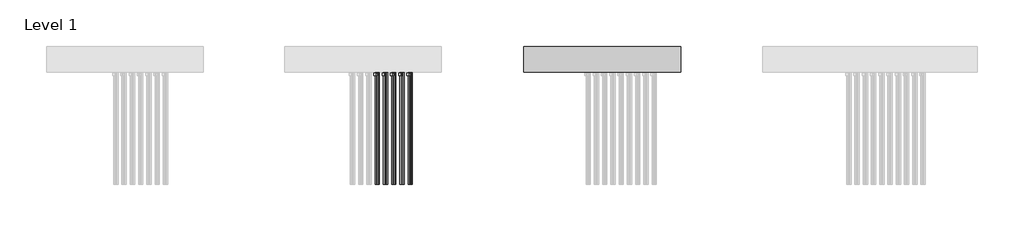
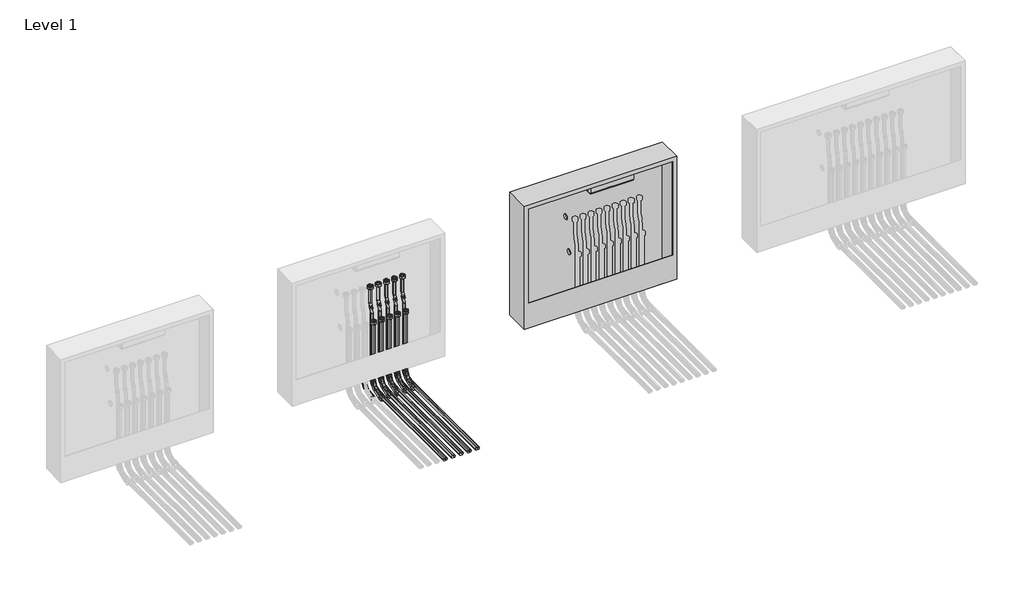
# One storey, part 7 of 15: 41 pipe fittings, 32 pipe segments, 1 proxy, 1 valve.
"""IFC4 building model written with IfcOpenShell, lengths in millimetres."""

from ifc_helpers import new_model, si_unit, point, frame, frame_2d, origin, place, context, project, spatial, circle_curve, trimmed, segment, composite_curve, outline, extrude, transform, mapped, element, save
from components import mechanical_equipment_387b3563, pipe_fitting_b05a7e06, pipe_fitting_27357a6d, pipe_fitting_daada113, pipe_fitting_3e503640, valve_ecdb27b7

model = new_model("IFC4")

# Units and contexts
model_context = context("Model", 3, world=origin())
ifc_project = project(units=[si_unit("LENGTHUNIT", "METRE", prefix="MILLI")], contexts=[model_context])

# Site, building, storey
site = spatial("IfcSite", under=ifc_project)
building = spatial("IfcBuilding", under=site)
storey = spatial("IfcBuildingStorey", under=building, Name="Level 1", Elevation=0.0)

# Proxy
placement = place(None, origin())
mechanical_equipment_shape = mechanical_equipment_387b3563(model_context)
element("IfcBuildingElementProxy", 1, Name="USYSTEMS_Контроллер UH-6 230В1 : Контроллер UH-6 230В 2", ObjectType="USYSTEMS_Контроллер UH-6 230В1 : Контроллер UH-6 230В 2", at=placement, inside=storey, context=model_context, shape_type="MappedRepresentation", body=[
    mapped(mechanical_equipment_shape, transform((11746.3605101, 3891.5290681, 729.375), x_axis=(1.0, 0.0, 0.0), y_axis=(0.0, 1.0, 0.0), z_axis=(0.0, 0.0, 1.0))),
])

# Pipe fittings
pipe_fitting_shape = pipe_fitting_b05a7e06(model_context)
element("IfcPipeFitting", 2, ObjectType="USYSTEMS_УгловойФиксатор_Multi : Угловой фиксатор", at=placement, inside=storey, context=model_context, shape_type="MappedRepresentation", body=[
    mapped(pipe_fitting_shape, transform((10210.3530164, 3855.7905605, -114.3211479), x_axis=(0.0, 0.0, -1.0), y_axis=(0.0, -1.0, 0.0), z_axis=(-1.0, 0.0, 0.0))),
])
element("IfcPipeFitting", 3, ObjectType="USYSTEMS_УгловойФиксатор_Multi : Угловой фиксатор", at=placement, inside=storey, context=model_context, shape_type="MappedRepresentation", body=[
    mapped(pipe_fitting_shape, transform((10250.2672599, 3819.7908826, -114.3211479), x_axis=(0.0, 0.0, -1.0), y_axis=(0.0, -1.0, 0.0), z_axis=(-1.0, 0.0, 0.0))),
])
element("IfcPipeFitting", 4, ObjectType="USYSTEMS_УгловойФиксатор_Multi : Угловой фиксатор", at=placement, inside=storey, context=model_context, shape_type="MappedRepresentation", body=[
    mapped(pipe_fitting_shape, transform((10260.3530164, 3855.7905605, -114.3211479), x_axis=(0.0, 0.0, -1.0), y_axis=(0.0, -1.0, 0.0), z_axis=(-1.0, 0.0, 0.0))),
])
element("IfcPipeFitting", 5, ObjectType="USYSTEMS_УгловойФиксатор_Multi : Угловой фиксатор", at=placement, inside=storey, context=model_context, shape_type="MappedRepresentation", body=[
    mapped(pipe_fitting_shape, transform((10300.2672599, 3819.7905692, -114.3211479), x_axis=(0.0, 0.0, -1.0), y_axis=(0.0, -1.0, 0.0), z_axis=(-1.0, 0.0, 0.0))),
])
element("IfcPipeFitting", 6, ObjectType="USYSTEMS_УгловойФиксатор_Multi : Угловой фиксатор", at=placement, inside=storey, context=model_context, shape_type="MappedRepresentation", body=[
    mapped(pipe_fitting_shape, transform((10310.3530164, 3855.7905605, -114.3211479), x_axis=(0.0, 0.0, -1.0), y_axis=(0.0, -1.0, 0.0), z_axis=(-1.0, 0.0, 0.0))),
])
element("IfcPipeFitting", 7, ObjectType="USYSTEMS_УгловойФиксатор_Multi : Угловой фиксатор", at=placement, inside=storey, context=model_context, shape_type="MappedRepresentation", body=[
    mapped(pipe_fitting_shape, transform((10350.2672599, 3819.7905605, -114.3211479), x_axis=(0.0, 0.0, -1.0), y_axis=(0.0, -1.0, 0.0), z_axis=(-1.0, 0.0, 0.0))),
])
element("IfcPipeFitting", 8, ObjectType="USYSTEMS_УгловойФиксатор_Multi : Угловой фиксатор", at=placement, inside=storey, context=model_context, shape_type="MappedRepresentation", body=[
    mapped(pipe_fitting_shape, transform((10360.3530164, 3855.7905605, -114.3211479), x_axis=(0.0, 0.0, -1.0), y_axis=(0.0, -1.0, 0.0), z_axis=(-1.0, 0.0, 0.0))),
])
element("IfcPipeFitting", 9, ObjectType="USYSTEMS_УгловойФиксатор_Multi : Угловой фиксатор", at=placement, inside=storey, context=model_context, shape_type="MappedRepresentation", body=[
    mapped(pipe_fitting_shape, transform((10400.2672599, 3819.7905605, -114.3211479), x_axis=(0.0, 0.0, -1.0), y_axis=(0.0, -1.0, 0.0), z_axis=(-1.0, 0.0, 0.0))),
])
element("IfcPipeFitting", 10, ObjectType="USYSTEMS_УгловойФиксатор_Multi : Угловой фиксатор", at=placement, inside=storey, context=model_context, shape_type="MappedRepresentation", body=[
    mapped(pipe_fitting_shape, transform((10410.3530164, 3855.7908826, -114.3211479), x_axis=(0.0, 0.0, -1.0), y_axis=(0.0, -1.0, 0.0), z_axis=(-1.0, 0.0, 0.0))),
])
element("IfcPipeFitting", 11, ObjectType="USYSTEMS_УгловойФиксатор_Multi : Угловой фиксатор", at=placement, inside=storey, context=model_context, shape_type="MappedRepresentation", body=[
    mapped(pipe_fitting_shape, transform((10450.2672599, 3819.7905605, -114.3211479), x_axis=(0.0, 0.0, -1.0), y_axis=(0.0, -1.0, 0.0), z_axis=(-1.0, 0.0, 0.0))),
])
element("IfcPipeFitting", 12, ObjectType="USYSTEMS_УгловойФиксатор_Multi : Угловой фиксатор", at=placement, inside=storey, context=model_context, shape_type="MappedRepresentation", body=[
    mapped(pipe_fitting_shape, transform((10460.3530164, 3855.7905605, -114.3211479), x_axis=(0.0, 0.0, -1.0), y_axis=(0.0, -1.0, 0.0), z_axis=(-1.0, 0.0, 0.0))),
])
pipe_fitting_2_shape = pipe_fitting_27357a6d(model_context)
element("IfcPipeFitting", 13, ObjectType="USYSTEMS_Штуцер с внутренней резьбой_FlexX_PEX : 16x2,0 x 3/4\" ВР Евроконус", at=placement, inside=storey, context=model_context, shape_type="MappedRepresentation", body=[
    mapped(pipe_fitting_2_shape, transform((10250.2672599, 3819.7910207, 328.3084133), x_axis=(0.0, 0.0, 1.0), y_axis=(0.0, 1.0, 0.0), z_axis=(-1.0, 0.0, 0.0))),
])
element("IfcPipeFitting", 14, ObjectType="USYSTEMS_Штуцер с внутренней резьбой_FlexX_PEX : 16x2,0 x 3/4\" ВР Евроконус", at=placement, inside=storey, context=model_context, shape_type="MappedRepresentation", body=[
    mapped(pipe_fitting_2_shape, transform((10250.2672599, 3855.7910207, 538.3084133), x_axis=(0.0, 0.0, 1.0), y_axis=(0.0, 1.0, 0.0), z_axis=(-1.0, 0.0, 0.0))),
])
element("IfcPipeFitting", 15, ObjectType="USYSTEMS_Штуцер с внутренней резьбой_FlexX_PEX : 16x2,0 x 3/4\" ВР Евроконус", at=placement, inside=storey, context=model_context, shape_type="MappedRepresentation", body=[
    mapped(pipe_fitting_2_shape, transform((10300.2672599, 3819.7910207, 328.3084133), x_axis=(0.0, 0.0, 1.0), y_axis=(0.0, 1.0, 0.0), z_axis=(-1.0, 0.0, 0.0))),
])
element("IfcPipeFitting", 16, ObjectType="USYSTEMS_Штуцер с внутренней резьбой_FlexX_PEX : 16x2,0 x 3/4\" ВР Евроконус", at=placement, inside=storey, context=model_context, shape_type="MappedRepresentation", body=[
    mapped(pipe_fitting_2_shape, transform((10300.2672599, 3855.7910207, 538.3084133), x_axis=(0.0, 0.0, 1.0), y_axis=(0.0, 1.0, 0.0), z_axis=(-1.0, 0.0, 0.0))),
])
element("IfcPipeFitting", 17, ObjectType="USYSTEMS_Штуцер с внутренней резьбой_FlexX_PEX : 16x2,0 x 3/4\" ВР Евроконус", at=placement, inside=storey, context=model_context, shape_type="MappedRepresentation", body=[
    mapped(pipe_fitting_2_shape, transform((10350.2672599, 3819.7910207, 328.3084133), x_axis=(0.0, 0.0, 1.0), y_axis=(0.0, 1.0, 0.0), z_axis=(-1.0, 0.0, 0.0))),
])
element("IfcPipeFitting", 18, ObjectType="USYSTEMS_Штуцер с внутренней резьбой_FlexX_PEX : 16x2,0 x 3/4\" ВР Евроконус", at=placement, inside=storey, context=model_context, shape_type="MappedRepresentation", body=[
    mapped(pipe_fitting_2_shape, transform((10350.2672599, 3855.7910207, 538.3084133), x_axis=(0.0, 0.0, 1.0), y_axis=(0.0, 1.0, 0.0), z_axis=(-1.0, 0.0, 0.0))),
])
element("IfcPipeFitting", 19, ObjectType="USYSTEMS_Штуцер с внутренней резьбой_FlexX_PEX : 16x2,0 x 3/4\" ВР Евроконус", at=placement, inside=storey, context=model_context, shape_type="MappedRepresentation", body=[
    mapped(pipe_fitting_2_shape, transform((10400.2672599, 3819.7910207, 328.3084133), x_axis=(0.0, 0.0, 1.0), y_axis=(0.0, 1.0, 0.0), z_axis=(-1.0, 0.0, 0.0))),
])
element("IfcPipeFitting", 20, ObjectType="USYSTEMS_Штуцер с внутренней резьбой_FlexX_PEX : 16x2,0 x 3/4\" ВР Евроконус", at=placement, inside=storey, context=model_context, shape_type="MappedRepresentation", body=[
    mapped(pipe_fitting_2_shape, transform((10400.2672599, 3855.7910207, 538.3084133), x_axis=(0.0, 0.0, 1.0), y_axis=(0.0, 1.0, 0.0), z_axis=(-1.0, 0.0, 0.0))),
])
element("IfcPipeFitting", 21, ObjectType="USYSTEMS_Штуцер с внутренней резьбой_FlexX_PEX : 16x2,0 x 3/4\" ВР Евроконус", at=placement, inside=storey, context=model_context, shape_type="MappedRepresentation", body=[
    mapped(pipe_fitting_2_shape, transform((10450.2672599, 3819.7910207, 328.3084133), x_axis=(0.0, 0.0, 1.0), y_axis=(0.0, 1.0, 0.0), z_axis=(-1.0, 0.0, 0.0))),
])
element("IfcPipeFitting", 22, ObjectType="USYSTEMS_Штуцер с внутренней резьбой_FlexX_PEX : 16x2,0 x 3/4\" ВР Евроконус", at=placement, inside=storey, context=model_context, shape_type="MappedRepresentation", body=[
    mapped(pipe_fitting_2_shape, transform((10450.2672599, 3855.7910207, 538.3084133), x_axis=(0.0, 0.0, 1.0), y_axis=(0.0, 1.0, 0.0), z_axis=(-1.0, 0.0, 0.0))),
])
pipe_fitting_3_shape = pipe_fitting_daada113(model_context)
element("IfcPipeFitting", 23, ObjectType="USYSTEMS_Гнутая труба_Radi Pipe : PN 6 в бухтах", at=placement, inside=storey, context=model_context, shape_type="MappedRepresentation", body=[
    mapped(pipe_fitting_3_shape, transform((10250.2672599, 3855.7902607, 414.5388211), x_axis=(0.0, 0.0, -1.0), y_axis=(1.0, 0.0, 0.0), z_axis=(0.0, -1.0, 0.0))),
])
element("IfcPipeFitting", 24, ObjectType="USYSTEMS_Гнутая труба_Radi Pipe : PN 6 в бухтах", at=placement, inside=storey, context=model_context, shape_type="MappedRepresentation", body=[
    mapped(pipe_fitting_3_shape, transform((10260.3530164, 3855.7905605, 388.2645272), x_axis=(0.3583679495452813, 0.0, -0.9335804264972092), y_axis=(-0.9335804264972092, 0.0, -0.3583679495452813), z_axis=(0.0, 1.0, 0.0))),
])
element("IfcPipeFitting", 25, ObjectType="USYSTEMS_Гнутая труба_Radi Pipe : PN 6 в бухтах", at=placement, inside=storey, context=model_context, shape_type="MappedRepresentation", body=[
    mapped(pipe_fitting_3_shape, transform((10300.2672599, 3855.7902607, 414.5388211), x_axis=(0.0, 0.0, -1.0), y_axis=(1.0, 0.0, 0.0), z_axis=(0.0, -1.0, 0.0))),
])
element("IfcPipeFitting", 26, ObjectType="USYSTEMS_Гнутая труба_Radi Pipe : PN 6 в бухтах", at=placement, inside=storey, context=model_context, shape_type="MappedRepresentation", body=[
    mapped(pipe_fitting_3_shape, transform((10310.3530164, 3855.7905605, 388.2645272), x_axis=(0.3583679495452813, 0.0, -0.9335804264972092), y_axis=(-0.9335804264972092, 0.0, -0.3583679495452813), z_axis=(0.0, 1.0, 0.0))),
])
element("IfcPipeFitting", 27, ObjectType="USYSTEMS_Гнутая труба_Radi Pipe : PN 6 в бухтах", at=placement, inside=storey, context=model_context, shape_type="MappedRepresentation", body=[
    mapped(pipe_fitting_3_shape, transform((10350.2672599, 3855.7902607, 414.5388211), x_axis=(0.0, 0.0, -1.0), y_axis=(1.0, 0.0, 0.0), z_axis=(0.0, -1.0, 0.0))),
])
element("IfcPipeFitting", 28, ObjectType="USYSTEMS_Гнутая труба_Radi Pipe : PN 6 в бухтах", at=placement, inside=storey, context=model_context, shape_type="MappedRepresentation", body=[
    mapped(pipe_fitting_3_shape, transform((10360.3530164, 3855.7905605, 388.2645272), x_axis=(0.3583679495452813, 0.0, -0.9335804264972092), y_axis=(-0.9335804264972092, 0.0, -0.3583679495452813), z_axis=(0.0, 1.0, 0.0))),
])
element("IfcPipeFitting", 29, ObjectType="USYSTEMS_Гнутая труба_Radi Pipe : PN 6 в бухтах", at=placement, inside=storey, context=model_context, shape_type="MappedRepresentation", body=[
    mapped(pipe_fitting_3_shape, transform((10400.2672599, 3855.7907927, 414.5388211), x_axis=(0.0, 0.0, -1.0), y_axis=(1.0, 0.0, 0.0), z_axis=(0.0, -1.0, 0.0))),
])
element("IfcPipeFitting", 30, ObjectType="USYSTEMS_Гнутая труба_Radi Pipe : PN 6 в бухтах", at=placement, inside=storey, context=model_context, shape_type="MappedRepresentation", body=[
    mapped(pipe_fitting_3_shape, transform((10410.3530164, 3855.7908826, 388.2645272), x_axis=(0.3583679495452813, 0.0, -0.9335804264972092), y_axis=(-0.9335804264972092, 0.0, -0.3583679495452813), z_axis=(0.0, 1.0, 0.0))),
])
element("IfcPipeFitting", 31, ObjectType="USYSTEMS_Гнутая труба_Radi Pipe : PN 6 в бухтах", at=placement, inside=storey, context=model_context, shape_type="MappedRepresentation", body=[
    mapped(pipe_fitting_3_shape, transform((10450.2672599, 3855.7902607, 414.5388211), x_axis=(0.0, 0.0, -1.0), y_axis=(1.0, 0.0, 0.0), z_axis=(0.0, -1.0, 0.0))),
])
element("IfcPipeFitting", 32, ObjectType="USYSTEMS_Гнутая труба_Radi Pipe : PN 6 в бухтах", at=placement, inside=storey, context=model_context, shape_type="MappedRepresentation", body=[
    mapped(pipe_fitting_3_shape, transform((10460.3530164, 3855.7905605, 388.2645272), x_axis=(0.3583679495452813, 0.0, -0.9335804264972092), y_axis=(-0.9335804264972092, 0.0, -0.3583679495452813), z_axis=(0.0, 1.0, 0.0))),
])
pipe_fitting_4_shape = pipe_fitting_3e503640(model_context)
element("IfcPipeFitting", 33, ObjectType="USYSTEMS_Гнутая труба_Radi Pipe : PN 6 в бухтах_С фиксатором", at=placement, inside=storey, context=model_context, shape_type="MappedRepresentation", body=[
    mapped(pipe_fitting_4_shape, transform((10250.2672599, 3819.7908826, -114.3211479), x_axis=(0.0, 0.0, -1.0), y_axis=(0.0, -1.0, 0.0), z_axis=(-1.0, 0.0, 0.0))),
])
element("IfcPipeFitting", 34, ObjectType="USYSTEMS_Гнутая труба_Radi Pipe : PN 6 в бухтах_С фиксатором", at=placement, inside=storey, context=model_context, shape_type="MappedRepresentation", body=[
    mapped(pipe_fitting_4_shape, transform((10260.3530164, 3855.7905605, -114.3211479), x_axis=(0.0, 0.0, -1.0), y_axis=(0.0, -1.0, 0.0), z_axis=(-1.0, 0.0, 0.0))),
])
element("IfcPipeFitting", 35, ObjectType="USYSTEMS_Гнутая труба_Radi Pipe : PN 6 в бухтах_С фиксатором", at=placement, inside=storey, context=model_context, shape_type="MappedRepresentation", body=[
    mapped(pipe_fitting_4_shape, transform((10300.2672599, 3819.7905692, -114.3211479), x_axis=(0.0, 0.0, -1.0), y_axis=(0.0, -1.0, 0.0), z_axis=(-1.0, 0.0, 0.0))),
])
element("IfcPipeFitting", 36, ObjectType="USYSTEMS_Гнутая труба_Radi Pipe : PN 6 в бухтах_С фиксатором", at=placement, inside=storey, context=model_context, shape_type="MappedRepresentation", body=[
    mapped(pipe_fitting_4_shape, transform((10310.3530164, 3855.7905605, -114.3211479), x_axis=(0.0, 0.0, -1.0), y_axis=(0.0, -1.0, 0.0), z_axis=(-1.0, 0.0, 0.0))),
])
element("IfcPipeFitting", 37, ObjectType="USYSTEMS_Гнутая труба_Radi Pipe : PN 6 в бухтах_С фиксатором", at=placement, inside=storey, context=model_context, shape_type="MappedRepresentation", body=[
    mapped(pipe_fitting_4_shape, transform((10350.2672599, 3819.7905605, -114.3211479), x_axis=(0.0, 0.0, -1.0), y_axis=(0.0, -1.0, 0.0), z_axis=(-1.0, 0.0, 0.0))),
])
element("IfcPipeFitting", 38, ObjectType="USYSTEMS_Гнутая труба_Radi Pipe : PN 6 в бухтах_С фиксатором", at=placement, inside=storey, context=model_context, shape_type="MappedRepresentation", body=[
    mapped(pipe_fitting_4_shape, transform((10360.3530164, 3855.7905605, -114.3211479), x_axis=(0.0, 0.0, -1.0), y_axis=(0.0, -1.0, 0.0), z_axis=(-1.0, 0.0, 0.0))),
])
element("IfcPipeFitting", 39, ObjectType="USYSTEMS_Гнутая труба_Radi Pipe : PN 6 в бухтах_С фиксатором", at=placement, inside=storey, context=model_context, shape_type="MappedRepresentation", body=[
    mapped(pipe_fitting_4_shape, transform((10400.2672599, 3819.7905605, -114.3211479), x_axis=(0.0, 0.0, -1.0), y_axis=(0.0, -1.0, 0.0), z_axis=(-1.0, 0.0, 0.0))),
])
element("IfcPipeFitting", 40, ObjectType="USYSTEMS_Гнутая труба_Radi Pipe : PN 6 в бухтах_С фиксатором", at=placement, inside=storey, context=model_context, shape_type="MappedRepresentation", body=[
    mapped(pipe_fitting_4_shape, transform((10410.3530164, 3855.7908826, -114.3211479), x_axis=(0.0, 0.0, -1.0), y_axis=(0.0, -1.0, 0.0), z_axis=(-1.0, 0.0, 0.0))),
])
element("IfcPipeFitting", 41, ObjectType="USYSTEMS_Гнутая труба_Radi Pipe : PN 6 в бухтах_С фиксатором", at=placement, inside=storey, context=model_context, shape_type="MappedRepresentation", body=[
    mapped(pipe_fitting_4_shape, transform((10450.2672599, 3819.7905605, -114.3211479), x_axis=(0.0, 0.0, -1.0), y_axis=(0.0, -1.0, 0.0), z_axis=(-1.0, 0.0, 0.0))),
])
element("IfcPipeFitting", 42, ObjectType="USYSTEMS_Гнутая труба_Radi Pipe : PN 6 в бухтах_С фиксатором", at=placement, inside=storey, context=model_context, shape_type="MappedRepresentation", body=[
    mapped(pipe_fitting_4_shape, transform((10460.3530164, 3855.7905605, -114.3211479), x_axis=(0.0, 0.0, -1.0), y_axis=(0.0, -1.0, 0.0), z_axis=(-1.0, 0.0, 0.0))),
])

# Pipe segments
element("IfcPipeSegment", 43, ObjectType="USYSTEMS труба Radi Pipe белая PN6", at=placement, inside=storey, context=model_context, shape_type="SweptSolid", body=[
    extrude(outline(composite_curve([segment(trimmed(circle_curve(frame_2d((0.0, -8.0)), 8.0), [point((-8.0, -8.0))], [point((0.0, 0.0))], False, "CARTESIAN"), True, "CONTINUOUS"), segment(trimmed(circle_curve(frame_2d((0.0, -8.0)), 8.0), [point((0.0, 0.0))], [point((8.0, -8.0))], False, "CARTESIAN"), True, "CONTINUOUS"), segment(trimmed(circle_curve(frame_2d((0.0, -8.0)), 8.0), [point((8.0, -8.0))], [point((0.0, -16.0))], False, "CARTESIAN"), True, "CONTINUOUS"), segment(trimmed(circle_curve(frame_2d((0.0, -8.0)), 8.0), [point((0.0, -16.0))], [point((-8.0, -8.0))], False, "CARTESIAN"), True, "CONTINUOUS")], self_intersect=False)), frame((10250.2672599, 3811.7908826, -43.3211449), z_axis=(0.0, 3.724502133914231e-07, 0.9999999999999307), x_axis=(-1.0, 0.0, 0.0)), (0.0, 0.0, 1.0), 370.6295612),
])
element("IfcPipeSegment", 44, ObjectType="USYSTEMS труба Radi Pipe белая PN6", at=placement, inside=storey, context=model_context, shape_type="SweptSolid", body=[
    extrude(outline(composite_curve([segment(trimmed(circle_curve(frame_2d((0.0, -8.0)), 8.0), [point((-8.0, -8.0))], [point((0.0, 0.0))], False, "CARTESIAN"), True, "CONTINUOUS"), segment(trimmed(circle_curve(frame_2d((0.0, -8.0)), 8.0), [point((0.0, 0.0))], [point((8.0, -8.0))], False, "CARTESIAN"), True, "CONTINUOUS"), segment(trimmed(circle_curve(frame_2d((0.0, -8.0)), 8.0), [point((8.0, -8.0))], [point((0.0, -16.0))], False, "CARTESIAN"), True, "CONTINUOUS"), segment(trimmed(circle_curve(frame_2d((0.0, -8.0)), 8.0), [point((0.0, -16.0))], [point((-8.0, -8.0))], False, "CARTESIAN"), True, "CONTINUOUS")], self_intersect=False)), frame((10250.2672599, 3847.7902607, 438.2622802), z_axis=(0.0, 7.672802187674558e-06, 0.9999999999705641), x_axis=(-1.0, 0.0, 0.0)), (0.0, 0.0, 1.0), 99.0461944),
])
element("IfcPipeSegment", 45, ObjectType="USYSTEMS труба Radi Pipe белая PN6", at=placement, inside=storey, context=model_context, shape_type="SweptSolid", body=[
    extrude(outline(composite_curve([segment(trimmed(circle_curve(frame_2d((0.0, 8.0)), 8.0), [point((0.0003715, 16.0))], [point((8.0, 7.9996286))], False, "CARTESIAN"), True, "CONTINUOUS"), segment(trimmed(circle_curve(frame_2d((0.0, 8.0)), 8.0), [point((8.0, 7.9996286))], [point((-0.0003714, 0.0))], False, "CARTESIAN"), True, "CONTINUOUS"), segment(trimmed(circle_curve(frame_2d((0.0, 8.0)), 8.0), [point((-0.0003714, 0.0))], [point((-8.0, 8.0003714))], False, "CARTESIAN"), True, "CONTINUOUS"), segment(trimmed(circle_curve(frame_2d((0.0, 8.0)), 8.0), [point((-8.0, 8.0003714))], [point((0.0003715, 16.0))], False, "CARTESIAN"), True, "CONTINUOUS")], self_intersect=False)), frame((10258.7689653, 3847.7902607, 392.3912544), z_axis=(-0.3583679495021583, 1.5532384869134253e-05, 0.9335804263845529), x_axis=(0.9335804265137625, 5.962323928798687e-06, 0.35836794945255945)), (0.0, 0.0, 1.0), 19.3032171),
])
element("IfcPipeSegment", 46, ObjectType="USYSTEMS труба Radi Pipe белая PN6", at=placement, inside=storey, context=model_context, shape_type="SweptSolid", body=[
    extrude(outline(composite_curve([segment(trimmed(circle_curve(frame_2d((10260.3530164, 3855.7905605)), 8.0), [point((10268.3530164, 3855.7905605))], [point((10260.3530164, 3847.7905605))], False, "CARTESIAN"), True, "CONTINUOUS"), segment(trimmed(circle_curve(frame_2d((10260.3530164, 3855.7905605)), 8.0), [point((10260.3530164, 3847.7905605))], [point((10252.3530164, 3855.7905605))], False, "CARTESIAN"), True, "CONTINUOUS"), segment(trimmed(circle_curve(frame_2d((10260.3530164, 3855.7905605)), 8.0), [point((10252.3530164, 3855.7905605))], [point((10260.3530164, 3863.7905605))], False, "CARTESIAN"), True, "CONTINUOUS"), segment(trimmed(circle_curve(frame_2d((10260.3530164, 3855.7905605)), 8.0), [point((10260.3530164, 3863.7905605))], [point((10268.3530164, 3855.7905605))], False, "CARTESIAN"), True, "CONTINUOUS")], self_intersect=False)), frame((0.0, 0.0, -43.3211479), z_axis=(0.0, 0.0, 1.0), x_axis=(1.0, 0.0, 0.0)), (0.0, 0.0, 1.0), 407.8622774),
])
element("IfcPipeSegment", 47, ObjectType="USYSTEMS труба Radi Pipe белая PN6", at=placement, inside=storey, context=model_context, shape_type="SweptSolid", body=[
    extrude(outline(composite_curve([segment(trimmed(circle_curve(frame_2d((-114.3211479, 10250.2672599)), 8.0), [point((-114.3211479, 10242.2672599))], [point((-122.3211479, 10250.2672599))], False, "CARTESIAN"), True, "CONTINUOUS"), segment(trimmed(circle_curve(frame_2d((-114.3211479, 10250.2672599)), 8.0), [point((-122.3211479, 10250.2672599))], [point((-114.3211479, 10258.2672599))], False, "CARTESIAN"), True, "CONTINUOUS"), segment(trimmed(circle_curve(frame_2d((-114.3211479, 10250.2672599)), 8.0), [point((-114.3211479, 10258.2672599))], [point((-106.3211479, 10250.2672599))], False, "CARTESIAN"), True, "CONTINUOUS"), segment(trimmed(circle_curve(frame_2d((-114.3211479, 10250.2672599)), 8.0), [point((-106.3211479, 10250.2672599))], [point((-114.3211479, 10242.2672599))], False, "CARTESIAN"), True, "CONTINUOUS")], self_intersect=False)), frame((0.0, 3054.7207207, 0.0), z_axis=(0.0, 1.0, 0.0), x_axis=(0.0, 0.0, 1.0)), (0.0, 0.0, 1.0), 694.0701619),
])
element("IfcPipeSegment", 48, ObjectType="USYSTEMS труба Radi Pipe белая PN6", at=placement, inside=storey, context=model_context, shape_type="SweptSolid", body=[
    extrude(outline(composite_curve([segment(trimmed(circle_curve(frame_2d((-114.3211479, 10260.3530164)), 8.0), [point((-114.3211479, 10252.3530164))], [point((-122.3211479, 10260.3530164))], False, "CARTESIAN"), True, "CONTINUOUS"), segment(trimmed(circle_curve(frame_2d((-114.3211479, 10260.3530164)), 8.0), [point((-122.3211479, 10260.3530164))], [point((-114.3211479, 10268.3530164))], False, "CARTESIAN"), True, "CONTINUOUS"), segment(trimmed(circle_curve(frame_2d((-114.3211479, 10260.3530164)), 8.0), [point((-114.3211479, 10268.3530164))], [point((-106.3211479, 10260.3530164))], False, "CARTESIAN"), True, "CONTINUOUS"), segment(trimmed(circle_curve(frame_2d((-114.3211479, 10260.3530164)), 8.0), [point((-106.3211479, 10260.3530164))], [point((-114.3211479, 10252.3530164))], False, "CARTESIAN"), True, "CONTINUOUS")], self_intersect=False)), frame((0.0, 3054.7207207, 0.0), z_axis=(0.0, 1.0, 0.0), x_axis=(0.0, 0.0, 1.0)), (0.0, 0.0, 1.0), 730.0698398),
])
element("IfcPipeSegment", 49, ObjectType="USYSTEMS труба Radi Pipe белая PN6", at=placement, inside=storey, context=model_context, shape_type="SweptSolid", body=[
    extrude(outline(composite_curve([segment(trimmed(circle_curve(frame_2d((0.0, -8.0)), 8.0), [point((-8.0, -8.0))], [point((0.0, 0.0))], False, "CARTESIAN"), True, "CONTINUOUS"), segment(trimmed(circle_curve(frame_2d((0.0, -8.0)), 8.0), [point((0.0, 0.0))], [point((8.0, -8.0))], False, "CARTESIAN"), True, "CONTINUOUS"), segment(trimmed(circle_curve(frame_2d((0.0, -8.0)), 8.0), [point((8.0, -8.0))], [point((0.0, -16.0))], False, "CARTESIAN"), True, "CONTINUOUS"), segment(trimmed(circle_curve(frame_2d((0.0, -8.0)), 8.0), [point((0.0, -16.0))], [point((-8.0, -8.0))], False, "CARTESIAN"), True, "CONTINUOUS")], self_intersect=False)), frame((10300.2672599, 3811.7905692, -43.3211381), z_axis=(0.0, 1.2180389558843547e-06, 0.9999999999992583), x_axis=(-1.0, 0.0, 0.0)), (0.0, 0.0, 1.0), 370.6295612),
])
element("IfcPipeSegment", 50, ObjectType="USYSTEMS труба Radi Pipe белая PN6", at=placement, inside=storey, context=model_context, shape_type="SweptSolid", body=[
    extrude(outline(composite_curve([segment(trimmed(circle_curve(frame_2d((0.0, -8.0)), 8.0), [point((-8.0, -8.0))], [point((0.0, 0.0))], False, "CARTESIAN"), True, "CONTINUOUS"), segment(trimmed(circle_curve(frame_2d((0.0, -8.0)), 8.0), [point((0.0, 0.0))], [point((8.0, -8.0))], False, "CARTESIAN"), True, "CONTINUOUS"), segment(trimmed(circle_curve(frame_2d((0.0, -8.0)), 8.0), [point((8.0, -8.0))], [point((0.0, -16.0))], False, "CARTESIAN"), True, "CONTINUOUS"), segment(trimmed(circle_curve(frame_2d((0.0, -8.0)), 8.0), [point((0.0, -16.0))], [point((-8.0, -8.0))], False, "CARTESIAN"), True, "CONTINUOUS")], self_intersect=False)), frame((10300.2672599, 3847.7902607, 438.2622802), z_axis=(0.0, 7.672802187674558e-06, 0.9999999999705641), x_axis=(-1.0, 0.0, 0.0)), (0.0, 0.0, 1.0), 99.0461944),
])
element("IfcPipeSegment", 51, ObjectType="USYSTEMS труба Radi Pipe белая PN6", at=placement, inside=storey, context=model_context, shape_type="SweptSolid", body=[
    extrude(outline(composite_curve([segment(trimmed(circle_curve(frame_2d((0.0, 8.0)), 8.0), [point((0.0003715, 16.0))], [point((8.0, 7.9996286))], False, "CARTESIAN"), True, "CONTINUOUS"), segment(trimmed(circle_curve(frame_2d((0.0, 8.0)), 8.0), [point((8.0, 7.9996286))], [point((-0.0003714, 0.0))], False, "CARTESIAN"), True, "CONTINUOUS"), segment(trimmed(circle_curve(frame_2d((0.0, 8.0)), 8.0), [point((-0.0003714, 0.0))], [point((-8.0, 8.0003714))], False, "CARTESIAN"), True, "CONTINUOUS"), segment(trimmed(circle_curve(frame_2d((0.0, 8.0)), 8.0), [point((-8.0, 8.0003714))], [point((0.0003715, 16.0))], False, "CARTESIAN"), True, "CONTINUOUS")], self_intersect=False)), frame((10308.7689653, 3847.7902607, 392.3912544), z_axis=(-0.35836794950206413, 1.5532384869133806e-05, 0.933580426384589), x_axis=(0.9335804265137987, 5.962323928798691e-06, 0.3583679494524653)), (0.0, 0.0, 1.0), 19.3032171),
])
element("IfcPipeSegment", 52, ObjectType="USYSTEMS труба Radi Pipe белая PN6", at=placement, inside=storey, context=model_context, shape_type="SweptSolid", body=[
    extrude(outline(composite_curve([segment(trimmed(circle_curve(frame_2d((10310.3530164, 3855.7905605)), 8.0), [point((10318.3530164, 3855.7905605))], [point((10310.3530164, 3847.7905605))], False, "CARTESIAN"), True, "CONTINUOUS"), segment(trimmed(circle_curve(frame_2d((10310.3530164, 3855.7905605)), 8.0), [point((10310.3530164, 3847.7905605))], [point((10302.3530164, 3855.7905605))], False, "CARTESIAN"), True, "CONTINUOUS"), segment(trimmed(circle_curve(frame_2d((10310.3530164, 3855.7905605)), 8.0), [point((10302.3530164, 3855.7905605))], [point((10310.3530164, 3863.7905605))], False, "CARTESIAN"), True, "CONTINUOUS"), segment(trimmed(circle_curve(frame_2d((10310.3530164, 3855.7905605)), 8.0), [point((10310.3530164, 3863.7905605))], [point((10318.3530164, 3855.7905605))], False, "CARTESIAN"), True, "CONTINUOUS")], self_intersect=False)), frame((0.0, 0.0, -43.3211479), z_axis=(0.0, 0.0, 1.0), x_axis=(1.0, 0.0, 0.0)), (0.0, 0.0, 1.0), 407.8622774),
])
element("IfcPipeSegment", 53, ObjectType="USYSTEMS труба Radi Pipe белая PN6", at=placement, inside=storey, context=model_context, shape_type="SweptSolid", body=[
    extrude(outline(composite_curve([segment(trimmed(circle_curve(frame_2d((-114.3211479, 10300.2672599)), 8.0), [point((-114.3211479, 10292.2672599))], [point((-122.3211479, 10300.2672599))], False, "CARTESIAN"), True, "CONTINUOUS"), segment(trimmed(circle_curve(frame_2d((-114.3211479, 10300.2672599)), 8.0), [point((-122.3211479, 10300.2672599))], [point((-114.3211479, 10308.2672599))], False, "CARTESIAN"), True, "CONTINUOUS"), segment(trimmed(circle_curve(frame_2d((-114.3211479, 10300.2672599)), 8.0), [point((-114.3211479, 10308.2672599))], [point((-106.3211479, 10300.2672599))], False, "CARTESIAN"), True, "CONTINUOUS"), segment(trimmed(circle_curve(frame_2d((-114.3211479, 10300.2672599)), 8.0), [point((-106.3211479, 10300.2672599))], [point((-114.3211479, 10292.2672599))], False, "CARTESIAN"), True, "CONTINUOUS")], self_intersect=False)), frame((0.0, 3054.7207207, 0.0), z_axis=(0.0, 1.0, 0.0), x_axis=(0.0, 0.0, 1.0)), (0.0, 0.0, 1.0), 694.0698485),
])
element("IfcPipeSegment", 54, ObjectType="USYSTEMS труба Radi Pipe белая PN6", at=placement, inside=storey, context=model_context, shape_type="SweptSolid", body=[
    extrude(outline(composite_curve([segment(trimmed(circle_curve(frame_2d((-114.3211479, 10310.3530164)), 8.0), [point((-114.3211479, 10302.3530164))], [point((-122.3211479, 10310.3530164))], False, "CARTESIAN"), True, "CONTINUOUS"), segment(trimmed(circle_curve(frame_2d((-114.3211479, 10310.3530164)), 8.0), [point((-122.3211479, 10310.3530164))], [point((-114.3211479, 10318.3530164))], False, "CARTESIAN"), True, "CONTINUOUS"), segment(trimmed(circle_curve(frame_2d((-114.3211479, 10310.3530164)), 8.0), [point((-114.3211479, 10318.3530164))], [point((-106.3211479, 10310.3530164))], False, "CARTESIAN"), True, "CONTINUOUS"), segment(trimmed(circle_curve(frame_2d((-114.3211479, 10310.3530164)), 8.0), [point((-106.3211479, 10310.3530164))], [point((-114.3211479, 10302.3530164))], False, "CARTESIAN"), True, "CONTINUOUS")], self_intersect=False)), frame((0.0, 3054.7207207, 0.0), z_axis=(0.0, 1.0, 0.0), x_axis=(0.0, 0.0, 1.0)), (0.0, 0.0, 1.0), 730.0698398),
])
element("IfcPipeSegment", 55, ObjectType="USYSTEMS труба Radi Pipe белая PN6", at=placement, inside=storey, context=model_context, shape_type="SweptSolid", body=[
    extrude(outline(composite_curve([segment(trimmed(circle_curve(frame_2d((0.0, -8.0)), 8.0), [point((-8.0, -8.0))], [point((0.0, 0.0))], False, "CARTESIAN"), True, "CONTINUOUS"), segment(trimmed(circle_curve(frame_2d((0.0, -8.0)), 8.0), [point((0.0, 0.0))], [point((8.0, -8.0))], False, "CARTESIAN"), True, "CONTINUOUS"), segment(trimmed(circle_curve(frame_2d((0.0, -8.0)), 8.0), [point((8.0, -8.0))], [point((0.0, -16.0))], False, "CARTESIAN"), True, "CONTINUOUS"), segment(trimmed(circle_curve(frame_2d((0.0, -8.0)), 8.0), [point((0.0, -16.0))], [point((-8.0, -8.0))], False, "CARTESIAN"), True, "CONTINUOUS")], self_intersect=False)), frame((10350.2672599, 3811.7905605, -43.321138), z_axis=(0.0, 1.241500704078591e-06, 0.9999999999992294), x_axis=(-1.0, 0.0, 0.0)), (0.0, 0.0, 1.0), 370.6295612),
])
element("IfcPipeSegment", 56, ObjectType="USYSTEMS труба Radi Pipe белая PN6", at=placement, inside=storey, context=model_context, shape_type="SweptSolid", body=[
    extrude(outline(composite_curve([segment(trimmed(circle_curve(frame_2d((0.0, -8.0)), 8.0), [point((-8.0, -8.0))], [point((0.0, 0.0))], False, "CARTESIAN"), True, "CONTINUOUS"), segment(trimmed(circle_curve(frame_2d((0.0, -8.0)), 8.0), [point((0.0, 0.0))], [point((8.0, -8.0))], False, "CARTESIAN"), True, "CONTINUOUS"), segment(trimmed(circle_curve(frame_2d((0.0, -8.0)), 8.0), [point((8.0, -8.0))], [point((0.0, -16.0))], False, "CARTESIAN"), True, "CONTINUOUS"), segment(trimmed(circle_curve(frame_2d((0.0, -8.0)), 8.0), [point((0.0, -16.0))], [point((-8.0, -8.0))], False, "CARTESIAN"), True, "CONTINUOUS")], self_intersect=False)), frame((10350.2672599, 3847.7902607, 438.2622802), z_axis=(0.0, 7.672802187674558e-06, 0.9999999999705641), x_axis=(-1.0, 0.0, 0.0)), (0.0, 0.0, 1.0), 99.0461944),
])
element("IfcPipeSegment", 57, ObjectType="USYSTEMS труба Radi Pipe белая PN6", at=placement, inside=storey, context=model_context, shape_type="SweptSolid", body=[
    extrude(outline(composite_curve([segment(trimmed(circle_curve(frame_2d((0.0, 8.0)), 8.0), [point((0.0003715, 16.0))], [point((8.0, 7.9996286))], False, "CARTESIAN"), True, "CONTINUOUS"), segment(trimmed(circle_curve(frame_2d((0.0, 8.0)), 8.0), [point((8.0, 7.9996286))], [point((-0.0003714, 0.0))], False, "CARTESIAN"), True, "CONTINUOUS"), segment(trimmed(circle_curve(frame_2d((0.0, 8.0)), 8.0), [point((-0.0003714, 0.0))], [point((-8.0, 8.0003714))], False, "CARTESIAN"), True, "CONTINUOUS"), segment(trimmed(circle_curve(frame_2d((0.0, 8.0)), 8.0), [point((-8.0, 8.0003714))], [point((0.0003715, 16.0))], False, "CARTESIAN"), True, "CONTINUOUS")], self_intersect=False)), frame((10358.7689653, 3847.7902607, 392.3912544), z_axis=(-0.3583679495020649, 1.5532384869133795e-05, 0.9335804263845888), x_axis=(0.9335804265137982, 5.962323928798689e-06, 0.35836794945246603)), (0.0, 0.0, 1.0), 19.3032171),
])
element("IfcPipeSegment", 58, ObjectType="USYSTEMS труба Radi Pipe белая PN6", at=placement, inside=storey, context=model_context, shape_type="SweptSolid", body=[
    extrude(outline(composite_curve([segment(trimmed(circle_curve(frame_2d((10360.3530164, 3855.7905605)), 8.0), [point((10368.3530164, 3855.7905605))], [point((10360.3530164, 3847.7905605))], False, "CARTESIAN"), True, "CONTINUOUS"), segment(trimmed(circle_curve(frame_2d((10360.3530164, 3855.7905605)), 8.0), [point((10360.3530164, 3847.7905605))], [point((10352.3530164, 3855.7905605))], False, "CARTESIAN"), True, "CONTINUOUS"), segment(trimmed(circle_curve(frame_2d((10360.3530164, 3855.7905605)), 8.0), [point((10352.3530164, 3855.7905605))], [point((10360.3530164, 3863.7905605))], False, "CARTESIAN"), True, "CONTINUOUS"), segment(trimmed(circle_curve(frame_2d((10360.3530164, 3855.7905605)), 8.0), [point((10360.3530164, 3863.7905605))], [point((10368.3530164, 3855.7905605))], False, "CARTESIAN"), True, "CONTINUOUS")], self_intersect=False)), frame((0.0, 0.0, -43.3211479), z_axis=(0.0, 0.0, 1.0), x_axis=(1.0, 0.0, 0.0)), (0.0, 0.0, 1.0), 407.8622774),
])
element("IfcPipeSegment", 59, ObjectType="USYSTEMS труба Radi Pipe белая PN6", at=placement, inside=storey, context=model_context, shape_type="SweptSolid", body=[
    extrude(outline(composite_curve([segment(trimmed(circle_curve(frame_2d((-114.3211479, 10350.2672599)), 8.0), [point((-114.3211479, 10342.2672599))], [point((-122.3211479, 10350.2672599))], False, "CARTESIAN"), True, "CONTINUOUS"), segment(trimmed(circle_curve(frame_2d((-114.3211479, 10350.2672599)), 8.0), [point((-122.3211479, 10350.2672599))], [point((-114.3211479, 10358.2672599))], False, "CARTESIAN"), True, "CONTINUOUS"), segment(trimmed(circle_curve(frame_2d((-114.3211479, 10350.2672599)), 8.0), [point((-114.3211479, 10358.2672599))], [point((-106.3211479, 10350.2672599))], False, "CARTESIAN"), True, "CONTINUOUS"), segment(trimmed(circle_curve(frame_2d((-114.3211479, 10350.2672599)), 8.0), [point((-106.3211479, 10350.2672599))], [point((-114.3211479, 10342.2672599))], False, "CARTESIAN"), True, "CONTINUOUS")], self_intersect=False)), frame((0.0, 3054.7207207, 0.0), z_axis=(0.0, 1.0, 0.0), x_axis=(0.0, 0.0, 1.0)), (0.0, 0.0, 1.0), 694.0698398),
])
element("IfcPipeSegment", 60, ObjectType="USYSTEMS труба Radi Pipe белая PN6", at=placement, inside=storey, context=model_context, shape_type="SweptSolid", body=[
    extrude(outline(composite_curve([segment(trimmed(circle_curve(frame_2d((-114.3211479, 10360.3530164)), 8.0), [point((-114.3211479, 10352.3530164))], [point((-122.3211479, 10360.3530164))], False, "CARTESIAN"), True, "CONTINUOUS"), segment(trimmed(circle_curve(frame_2d((-114.3211479, 10360.3530164)), 8.0), [point((-122.3211479, 10360.3530164))], [point((-114.3211479, 10368.3530164))], False, "CARTESIAN"), True, "CONTINUOUS"), segment(trimmed(circle_curve(frame_2d((-114.3211479, 10360.3530164)), 8.0), [point((-114.3211479, 10368.3530164))], [point((-106.3211479, 10360.3530164))], False, "CARTESIAN"), True, "CONTINUOUS"), segment(trimmed(circle_curve(frame_2d((-114.3211479, 10360.3530164)), 8.0), [point((-106.3211479, 10360.3530164))], [point((-114.3211479, 10352.3530164))], False, "CARTESIAN"), True, "CONTINUOUS")], self_intersect=False)), frame((0.0, 3054.7207207, 0.0), z_axis=(0.0, 1.0, 0.0), x_axis=(0.0, 0.0, 1.0)), (0.0, 0.0, 1.0), 730.0698398),
])
element("IfcPipeSegment", 61, ObjectType="USYSTEMS труба Radi Pipe белая PN6", at=placement, inside=storey, context=model_context, shape_type="SweptSolid", body=[
    extrude(outline(composite_curve([segment(trimmed(circle_curve(frame_2d((0.0, -8.0)), 8.0), [point((-8.0, -8.0))], [point((0.0, 0.0))], False, "CARTESIAN"), True, "CONTINUOUS"), segment(trimmed(circle_curve(frame_2d((0.0, -8.0)), 8.0), [point((0.0, 0.0))], [point((8.0, -8.0))], False, "CARTESIAN"), True, "CONTINUOUS"), segment(trimmed(circle_curve(frame_2d((0.0, -8.0)), 8.0), [point((8.0, -8.0))], [point((0.0, -16.0))], False, "CARTESIAN"), True, "CONTINUOUS"), segment(trimmed(circle_curve(frame_2d((0.0, -8.0)), 8.0), [point((0.0, -16.0))], [point((-8.0, -8.0))], False, "CARTESIAN"), True, "CONTINUOUS")], self_intersect=False)), frame((10400.2672599, 3811.7905605, -43.321138), z_axis=(0.0, 1.241500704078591e-06, 0.9999999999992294), x_axis=(-1.0, 0.0, 0.0)), (0.0, 0.0, 1.0), 370.6295612),
])
element("IfcPipeSegment", 62, ObjectType="USYSTEMS труба Radi Pipe белая PN6", at=placement, inside=storey, context=model_context, shape_type="SweptSolid", body=[
    extrude(outline(composite_curve([segment(trimmed(circle_curve(frame_2d((0.0, -8.0)), 8.0), [point((-8.0, -8.0))], [point((0.0, 0.0))], False, "CARTESIAN"), True, "CONTINUOUS"), segment(trimmed(circle_curve(frame_2d((0.0, -8.0)), 8.0), [point((0.0, 0.0))], [point((8.0, -8.0))], False, "CARTESIAN"), True, "CONTINUOUS"), segment(trimmed(circle_curve(frame_2d((0.0, -8.0)), 8.0), [point((8.0, -8.0))], [point((0.0, -16.0))], False, "CARTESIAN"), True, "CONTINUOUS"), segment(trimmed(circle_curve(frame_2d((0.0, -8.0)), 8.0), [point((0.0, -16.0))], [point((-8.0, -8.0))], False, "CARTESIAN"), True, "CONTINUOUS")], self_intersect=False)), frame((10400.2672599, 3847.7907927, 438.2622373), z_axis=(0.0, 2.3018406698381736e-06, 0.9999999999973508), x_axis=(-1.0, 0.0, 0.0)), (0.0, 0.0, 1.0), 99.0461944),
])
element("IfcPipeSegment", 63, ObjectType="USYSTEMS труба Radi Pipe белая PN6", at=placement, inside=storey, context=model_context, shape_type="SweptSolid", body=[
    extrude(outline(composite_curve([segment(trimmed(circle_curve(frame_2d((0.0, 8.0)), 8.0), [point((0.0001114, 16.0))], [point((8.0, 7.9998886))], False, "CARTESIAN"), True, "CONTINUOUS"), segment(trimmed(circle_curve(frame_2d((0.0, 8.0)), 8.0), [point((8.0, 7.9998886))], [point((-0.0001114, 0.0))], False, "CARTESIAN"), True, "CONTINUOUS"), segment(trimmed(circle_curve(frame_2d((0.0, 8.0)), 8.0), [point((-0.0001114, 0.0))], [point((-8.0, 8.0001114))], False, "CARTESIAN"), True, "CONTINUOUS"), segment(trimmed(circle_curve(frame_2d((0.0, 8.0)), 8.0), [point((-8.0, 8.0001114))], [point((0.0001114, 16.0))], False, "CARTESIAN"), True, "CONTINUOUS")], self_intersect=False)), frame((10408.7689653, 3847.7907927, 392.3911613), z_axis=(-0.35836794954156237, 4.659715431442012e-06, 0.9335804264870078), x_axis=(0.9335804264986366, 1.7886971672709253e-06, 0.35836794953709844)), (0.0, 0.0, 1.0), 19.3032171),
])
element("IfcPipeSegment", 64, ObjectType="USYSTEMS труба Radi Pipe белая PN6", at=placement, inside=storey, context=model_context, shape_type="SweptSolid", body=[
    extrude(outline(composite_curve([segment(trimmed(circle_curve(frame_2d((10410.3530164, 3855.7908826)), 8.0), [point((10418.3530164, 3855.7908826))], [point((10410.3530164, 3847.7908826))], False, "CARTESIAN"), True, "CONTINUOUS"), segment(trimmed(circle_curve(frame_2d((10410.3530164, 3855.7908826)), 8.0), [point((10410.3530164, 3847.7908826))], [point((10402.3530164, 3855.7908826))], False, "CARTESIAN"), True, "CONTINUOUS"), segment(trimmed(circle_curve(frame_2d((10410.3530164, 3855.7908826)), 8.0), [point((10402.3530164, 3855.7908826))], [point((10410.3530164, 3863.7908826))], False, "CARTESIAN"), True, "CONTINUOUS"), segment(trimmed(circle_curve(frame_2d((10410.3530164, 3855.7908826)), 8.0), [point((10410.3530164, 3863.7908826))], [point((10418.3530164, 3855.7908826))], False, "CARTESIAN"), True, "CONTINUOUS")], self_intersect=False)), frame((0.0, 0.0, -43.3211479), z_axis=(0.0, 0.0, 1.0), x_axis=(1.0, 0.0, 0.0)), (0.0, 0.0, 1.0), 407.8622774),
])
element("IfcPipeSegment", 65, ObjectType="USYSTEMS труба Radi Pipe белая PN6", at=placement, inside=storey, context=model_context, shape_type="SweptSolid", body=[
    extrude(outline(composite_curve([segment(trimmed(circle_curve(frame_2d((-114.3211479, 10400.2672599)), 8.0), [point((-114.3211479, 10392.2672599))], [point((-122.3211479, 10400.2672599))], False, "CARTESIAN"), True, "CONTINUOUS"), segment(trimmed(circle_curve(frame_2d((-114.3211479, 10400.2672599)), 8.0), [point((-122.3211479, 10400.2672599))], [point((-114.3211479, 10408.2672599))], False, "CARTESIAN"), True, "CONTINUOUS"), segment(trimmed(circle_curve(frame_2d((-114.3211479, 10400.2672599)), 8.0), [point((-114.3211479, 10408.2672599))], [point((-106.3211479, 10400.2672599))], False, "CARTESIAN"), True, "CONTINUOUS"), segment(trimmed(circle_curve(frame_2d((-114.3211479, 10400.2672599)), 8.0), [point((-106.3211479, 10400.2672599))], [point((-114.3211479, 10392.2672599))], False, "CARTESIAN"), True, "CONTINUOUS")], self_intersect=False)), frame((0.0, 3054.7207207, 0.0), z_axis=(0.0, 1.0, 0.0), x_axis=(0.0, 0.0, 1.0)), (0.0, 0.0, 1.0), 694.0698398),
])
element("IfcPipeSegment", 66, ObjectType="USYSTEMS труба Radi Pipe белая PN6", at=placement, inside=storey, context=model_context, shape_type="SweptSolid", body=[
    extrude(outline(composite_curve([segment(trimmed(circle_curve(frame_2d((-114.3211479, 10410.3530164)), 8.0), [point((-114.3211479, 10402.3530164))], [point((-122.3211479, 10410.3530164))], False, "CARTESIAN"), True, "CONTINUOUS"), segment(trimmed(circle_curve(frame_2d((-114.3211479, 10410.3530164)), 8.0), [point((-122.3211479, 10410.3530164))], [point((-114.3211479, 10418.3530164))], False, "CARTESIAN"), True, "CONTINUOUS"), segment(trimmed(circle_curve(frame_2d((-114.3211479, 10410.3530164)), 8.0), [point((-114.3211479, 10418.3530164))], [point((-106.3211479, 10410.3530164))], False, "CARTESIAN"), True, "CONTINUOUS"), segment(trimmed(circle_curve(frame_2d((-114.3211479, 10410.3530164)), 8.0), [point((-106.3211479, 10410.3530164))], [point((-114.3211479, 10402.3530164))], False, "CARTESIAN"), True, "CONTINUOUS")], self_intersect=False)), frame((0.0, 3054.7207207, 0.0), z_axis=(0.0, 1.0, 0.0), x_axis=(0.0, 0.0, 1.0)), (0.0, 0.0, 1.0), 730.0701619),
])
element("IfcPipeSegment", 67, ObjectType="USYSTEMS труба Radi Pipe белая PN6", at=placement, inside=storey, context=model_context, shape_type="SweptSolid", body=[
    extrude(outline(composite_curve([segment(trimmed(circle_curve(frame_2d((0.0, -8.0)), 8.0), [point((-8.0, -8.0))], [point((0.0, 0.0))], False, "CARTESIAN"), True, "CONTINUOUS"), segment(trimmed(circle_curve(frame_2d((0.0, -8.0)), 8.0), [point((0.0, 0.0))], [point((8.0, -8.0))], False, "CARTESIAN"), True, "CONTINUOUS"), segment(trimmed(circle_curve(frame_2d((0.0, -8.0)), 8.0), [point((8.0, -8.0))], [point((0.0, -16.0))], False, "CARTESIAN"), True, "CONTINUOUS"), segment(trimmed(circle_curve(frame_2d((0.0, -8.0)), 8.0), [point((0.0, -16.0))], [point((-8.0, -8.0))], False, "CARTESIAN"), True, "CONTINUOUS")], self_intersect=False)), frame((10450.2672599, 3811.7905605, -43.321138), z_axis=(0.0, 1.241500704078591e-06, 0.9999999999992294), x_axis=(-1.0, 0.0, 0.0)), (0.0, 0.0, 1.0), 370.6295612),
])
element("IfcPipeSegment", 68, ObjectType="USYSTEMS труба Radi Pipe белая PN6", at=placement, inside=storey, context=model_context, shape_type="SweptSolid", body=[
    extrude(outline(composite_curve([segment(trimmed(circle_curve(frame_2d((0.0, -8.0)), 8.0), [point((-8.0, -8.0))], [point((0.0, 0.0))], False, "CARTESIAN"), True, "CONTINUOUS"), segment(trimmed(circle_curve(frame_2d((0.0, -8.0)), 8.0), [point((0.0, 0.0))], [point((8.0, -8.0))], False, "CARTESIAN"), True, "CONTINUOUS"), segment(trimmed(circle_curve(frame_2d((0.0, -8.0)), 8.0), [point((8.0, -8.0))], [point((0.0, -16.0))], False, "CARTESIAN"), True, "CONTINUOUS"), segment(trimmed(circle_curve(frame_2d((0.0, -8.0)), 8.0), [point((0.0, -16.0))], [point((-8.0, -8.0))], False, "CARTESIAN"), True, "CONTINUOUS")], self_intersect=False)), frame((10450.2672599, 3847.7902607, 438.2622802), z_axis=(0.0, 7.672802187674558e-06, 0.9999999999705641), x_axis=(-1.0, 0.0, 0.0)), (0.0, 0.0, 1.0), 99.0461944),
])
element("IfcPipeSegment", 69, ObjectType="USYSTEMS труба Radi Pipe белая PN6", at=placement, inside=storey, context=model_context, shape_type="SweptSolid", body=[
    extrude(outline(composite_curve([segment(trimmed(circle_curve(frame_2d((0.0, 8.0)), 8.0), [point((0.0003715, 16.0))], [point((8.0, 7.9996286))], False, "CARTESIAN"), True, "CONTINUOUS"), segment(trimmed(circle_curve(frame_2d((0.0, 8.0)), 8.0), [point((8.0, 7.9996286))], [point((-0.0003714, 0.0))], False, "CARTESIAN"), True, "CONTINUOUS"), segment(trimmed(circle_curve(frame_2d((0.0, 8.0)), 8.0), [point((-0.0003714, 0.0))], [point((-8.0, 8.0003714))], False, "CARTESIAN"), True, "CONTINUOUS"), segment(trimmed(circle_curve(frame_2d((0.0, 8.0)), 8.0), [point((-8.0, 8.0003714))], [point((0.0003715, 16.0))], False, "CARTESIAN"), True, "CONTINUOUS")], self_intersect=False)), frame((10458.7689653, 3847.7902607, 392.3912544), z_axis=(-0.3583679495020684, 1.553238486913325e-05, 0.9335804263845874), x_axis=(0.933580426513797, 5.96232392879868e-06, 0.3583679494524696)), (0.0, 0.0, 1.0), 19.3032171),
])
element("IfcPipeSegment", 70, ObjectType="USYSTEMS труба Radi Pipe белая PN6", at=placement, inside=storey, context=model_context, shape_type="SweptSolid", body=[
    extrude(outline(composite_curve([segment(trimmed(circle_curve(frame_2d((10460.3530164, 3855.7905605)), 8.0), [point((10468.3530164, 3855.7905605))], [point((10460.3530164, 3847.7905605))], False, "CARTESIAN"), True, "CONTINUOUS"), segment(trimmed(circle_curve(frame_2d((10460.3530164, 3855.7905605)), 8.0), [point((10460.3530164, 3847.7905605))], [point((10452.3530164, 3855.7905605))], False, "CARTESIAN"), True, "CONTINUOUS"), segment(trimmed(circle_curve(frame_2d((10460.3530164, 3855.7905605)), 8.0), [point((10452.3530164, 3855.7905605))], [point((10460.3530164, 3863.7905605))], False, "CARTESIAN"), True, "CONTINUOUS"), segment(trimmed(circle_curve(frame_2d((10460.3530164, 3855.7905605)), 8.0), [point((10460.3530164, 3863.7905605))], [point((10468.3530164, 3855.7905605))], False, "CARTESIAN"), True, "CONTINUOUS")], self_intersect=False)), frame((0.0, 0.0, -43.3211479), z_axis=(0.0, 0.0, 1.0), x_axis=(1.0, 0.0, 0.0)), (0.0, 0.0, 1.0), 407.8622774),
])
element("IfcPipeSegment", 71, ObjectType="USYSTEMS труба Radi Pipe белая PN6", at=placement, inside=storey, context=model_context, shape_type="SweptSolid", body=[
    extrude(outline(composite_curve([segment(trimmed(circle_curve(frame_2d((-114.3211479, 10450.2672599)), 8.0), [point((-114.3211479, 10442.2672599))], [point((-122.3211479, 10450.2672599))], False, "CARTESIAN"), True, "CONTINUOUS"), segment(trimmed(circle_curve(frame_2d((-114.3211479, 10450.2672599)), 8.0), [point((-122.3211479, 10450.2672599))], [point((-114.3211479, 10458.2672599))], False, "CARTESIAN"), True, "CONTINUOUS"), segment(trimmed(circle_curve(frame_2d((-114.3211479, 10450.2672599)), 8.0), [point((-114.3211479, 10458.2672599))], [point((-106.3211479, 10450.2672599))], False, "CARTESIAN"), True, "CONTINUOUS"), segment(trimmed(circle_curve(frame_2d((-114.3211479, 10450.2672599)), 8.0), [point((-106.3211479, 10450.2672599))], [point((-114.3211479, 10442.2672599))], False, "CARTESIAN"), True, "CONTINUOUS")], self_intersect=False)), frame((0.0, 3054.7207207, 0.0), z_axis=(0.0, 1.0, 0.0), x_axis=(0.0, 0.0, 1.0)), (0.0, 0.0, 1.0), 694.0698398),
])
element("IfcPipeSegment", 72, ObjectType="USYSTEMS труба Radi Pipe белая PN6", at=placement, inside=storey, context=model_context, shape_type="SweptSolid", body=[
    extrude(outline(composite_curve([segment(trimmed(circle_curve(frame_2d((-114.3211479, 10460.3530164)), 8.0), [point((-114.3211479, 10452.3530164))], [point((-122.3211479, 10460.3530164))], False, "CARTESIAN"), True, "CONTINUOUS"), segment(trimmed(circle_curve(frame_2d((-114.3211479, 10460.3530164)), 8.0), [point((-122.3211479, 10460.3530164))], [point((-114.3211479, 10468.3530164))], False, "CARTESIAN"), True, "CONTINUOUS"), segment(trimmed(circle_curve(frame_2d((-114.3211479, 10460.3530164)), 8.0), [point((-114.3211479, 10468.3530164))], [point((-106.3211479, 10460.3530164))], False, "CARTESIAN"), True, "CONTINUOUS"), segment(trimmed(circle_curve(frame_2d((-114.3211479, 10460.3530164)), 8.0), [point((-106.3211479, 10460.3530164))], [point((-114.3211479, 10452.3530164))], False, "CARTESIAN"), True, "CONTINUOUS")], self_intersect=False)), frame((0.0, 3054.7207207, 0.0), z_axis=(0.0, 1.0, 0.0), x_axis=(0.0, 0.0, 1.0)), (0.0, 0.0, 1.0), 730.0698398),
])
element("IfcPipeSegment", 73, ObjectType="Default", at=placement, inside=storey, context=model_context, shape_type="SweptSolid", body=[
    extrude(outline(composite_curve([segment(trimmed(circle_curve(frame_2d((3855.5920282, 575.3084133)), 16.7005), [point((3838.8915282, 575.3084133))], [point((3855.5920282, 592.0089133))], False, "CARTESIAN"), True, "CONTINUOUS"), segment(trimmed(circle_curve(frame_2d((3855.5920282, 575.3084133)), 16.7005), [point((3855.5920282, 592.0089133))], [point((3872.2925282, 575.3084133))], False, "CARTESIAN"), True, "CONTINUOUS"), segment(trimmed(circle_curve(frame_2d((3855.5920282, 575.3084133)), 16.7005), [point((3872.2925282, 575.3084133))], [point((3855.5920282, 558.6079133))], False, "CARTESIAN"), True, "CONTINUOUS"), segment(trimmed(circle_curve(frame_2d((3855.5920282, 575.3084133)), 16.7005), [point((3855.5920282, 558.6079133))], [point((3838.8915282, 575.3084133))], False, "CARTESIAN"), True, "CONTINUOUS")], self_intersect=False)), frame((11467.1166388, 0.0, 0.0), z_axis=(1.0, 0.0, 0.0), x_axis=(0.0, 1.0, 0.0)), (0.0, 0.0, 1.0), 3.2494082),
])
element("IfcPipeSegment", 74, ObjectType="Default", at=placement, inside=storey, context=model_context, shape_type="SweptSolid", body=[
    extrude(outline(composite_curve([segment(trimmed(circle_curve(frame_2d((3819.5920282, 365.3084133)), 16.7005), [point((3802.8915282, 365.3084133))], [point((3819.5920282, 382.0089133))], False, "CARTESIAN"), True, "CONTINUOUS"), segment(trimmed(circle_curve(frame_2d((3819.5920282, 365.3084133)), 16.7005), [point((3819.5920282, 382.0089133))], [point((3836.2925282, 365.3084133))], False, "CARTESIAN"), True, "CONTINUOUS"), segment(trimmed(circle_curve(frame_2d((3819.5920282, 365.3084133)), 16.7005), [point((3836.2925282, 365.3084133))], [point((3819.5920282, 348.6079133))], False, "CARTESIAN"), True, "CONTINUOUS"), segment(trimmed(circle_curve(frame_2d((3819.5920282, 365.3084133)), 16.7005), [point((3819.5920282, 348.6079133))], [point((3802.8915282, 365.3084133))], False, "CARTESIAN"), True, "CONTINUOUS")], self_intersect=False)), frame((11466.8925089, 0.0, 0.0), z_axis=(1.0, 0.0, 0.0), x_axis=(0.0, 1.0, 0.0)), (0.0, 0.0, 1.0), 3.4735381),
])

# Valve
valve_shape = valve_ecdb27b7(model_context)
element("IfcValve", 75, ObjectType="USYSTEMS_Коллекторный шкаф_Накладной : 950x160 мм", at=placement, inside=storey, context=model_context, shape_type="MappedRepresentation", body=[
    mapped(valve_shape, transform((11616.9633707, 3891.6487877, 423.1788521), x_axis=(1.0, 0.0, 0.0), y_axis=(0.0, 0.0, 1.0), z_axis=(0.0, -1.0, 0.0))),
])

save(model, "model.ifc")
